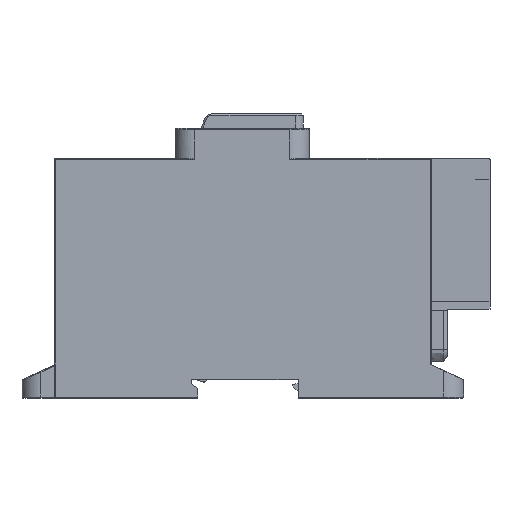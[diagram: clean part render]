
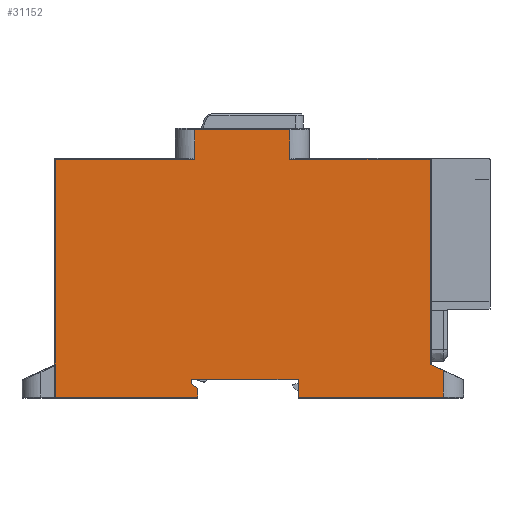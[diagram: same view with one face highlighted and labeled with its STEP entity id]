
A CAD part, left-side view. The second image highlights one B-rep face of the part: STEP entity #31152.
In plain terms, the highlighted planar face has unit normal (-1, 0, 0).
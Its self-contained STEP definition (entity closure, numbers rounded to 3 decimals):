
#603=DIRECTION('',(0.,-1.,0.));
#604=VECTOR('',#603,47.2);
#605=CARTESIAN_POINT('',(0.,144.2,0.3));
#606=LINE('',#605,#604);
#632=DIRECTION('',(0.,0.005,1.));
#633=VECTOR('',#632,5.987);
#634=CARTESIAN_POINT('',(0.,63.62,
0.3));
#635=LINE('',#634,#633);
#636=DIRECTION('',(0.,1.,0.));
#637=VECTOR('',#636,35.497);
#638=CARTESIAN_POINT('',(0.,63.652,6.287));
#639=LINE('',#638,#637);
#640=DIRECTION('',(0.,0.005,-1.));
#641=VECTOR('',#640,1.595);
#642=CARTESIAN_POINT('',(0.,99.148,6.3));
#643=LINE('',#642,#641);
#644=DIRECTION('',(0.,-0.819,-0.574));
#645=VECTOR('',#644,2.633);
#646=CARTESIAN_POINT('',(0.,99.157,4.705));
#647=LINE('',#646,#645);
#648=DIRECTION('',(0.,0.,-1.));
#649=VECTOR('',#648,2.895);
#650=CARTESIAN_POINT('',(0.,97.,3.195));
#651=LINE('',#650,#649);
#652=DIRECTION('',(0.,0.,1.));
#653=VECTOR('',#652,9.801);
#654=CARTESIAN_POINT('',(0.,97.977,79.199));
#655=LINE('',#654,#653);
#656=DIRECTION('',(0.,-1.,0.));
#657=VECTOR('',#656,31.599);
#658=CARTESIAN_POINT('',(0.,97.977,89.));
#659=LINE('',#658,#657);
#660=DIRECTION('',(0.,0.013,-1.));
#661=VECTOR('',#660,9.802);
#662=CARTESIAN_POINT('',(0.,66.378,89.));
#663=LINE('',#662,#661);
#664=DIRECTION('',(0.,-0.907,-0.42));
#665=VECTOR('',#664,4.738);
#666=CARTESIAN_POINT('',(0.,19.8,11.139));
#667=LINE('',#666,#665);
#668=DIRECTION('',(0.,-1.,0.));
#669=VECTOR('',#668,48.12);
#670=CARTESIAN_POINT('',(0.,63.62,
0.3));
#671=LINE('',#670,#669);
#688=CARTESIAN_POINT('',(0.,63.652,6.287));
#1198=DIRECTION('',(0.,0.,1.));
#1199=VECTOR('',#1198,8.848);
#1200=CARTESIAN_POINT('',(0.,15.5,0.3));
#1201=LINE('',#1200,#1199);
#1221=CARTESIAN_POINT('',(0.,15.5,9.148));
#6554=DIRECTION('',(0.,0.,1.));
#6555=VECTOR('',#6554,68.06);
#6556=CARTESIAN_POINT('',(0.,19.8,11.139));
#6557=LINE('',#6556,#6555);
#6566=DIRECTION('',(0.,1.,0.));
#6567=VECTOR('',#6566,46.704);
#6568=CARTESIAN_POINT('',(0.,19.8,79.199));
#6569=LINE('',#6568,#6567);
#6575=CARTESIAN_POINT('',(0.,66.504,79.199));
#6577=CARTESIAN_POINT('',(0.,66.378,89.));
#6631=DIRECTION('',(0.,1.,0.));
#6632=VECTOR('',#6631,46.223);
#6633=CARTESIAN_POINT('',(0.,97.977,79.199));
#6634=LINE('',#6633,#6632);
#7671=CARTESIAN_POINT('',(0.,99.148,6.3));
#17065=DIRECTION('',(0.,0.,-1.));
#17066=VECTOR('',#17065,78.899);
#17067=CARTESIAN_POINT('',(0.,144.2,79.199));
#17068=LINE('',#17067,#17066);
#24373=VERTEX_POINT('',#1221);
#24374=CARTESIAN_POINT('',(0.,19.8,11.139));
#24375=VERTEX_POINT('',#24374);
#26413=VERTEX_POINT('',#688);
#26414=CARTESIAN_POINT('',(0.,63.62,
0.3));
#26415=VERTEX_POINT('',#26414);
#26600=VERTEX_POINT('',#7671);
#26615=CARTESIAN_POINT('',(0.,99.157,
4.705));
#26616=VERTEX_POINT('',#26615);
#26623=CARTESIAN_POINT('',(0.,97.,3.195));
#26624=VERTEX_POINT('',#26623);
#26649=CARTESIAN_POINT('',(0.,97.,0.3));
#26650=VERTEX_POINT('',#26649);
#29021=CARTESIAN_POINT('',(0.,144.2,0.3));
#29022=VERTEX_POINT('',#29021);
#29023=CARTESIAN_POINT('',(0.,144.2,79.199));
#29024=VERTEX_POINT('',#29023);
#29084=VERTEX_POINT('',#6577);
#29087=VERTEX_POINT('',#6575);
#29088=CARTESIAN_POINT('',(0.,19.8,79.199));
#29089=VERTEX_POINT('',#29088);
#29090=CARTESIAN_POINT('',(0.,15.5,0.3));
#29091=VERTEX_POINT('',#29090);
#29092=CARTESIAN_POINT('',(0.,97.977,79.199));
#29093=VERTEX_POINT('',#29092);
#29094=CARTESIAN_POINT('',(0.,97.977,89.));
#29095=VERTEX_POINT('',#29094);
#31115=CARTESIAN_POINT('',(0.,156.,0.));
#31116=DIRECTION('',(-1.,0.,0.));
#31117=DIRECTION('',(0.,-1.,0.));
#31118=AXIS2_PLACEMENT_3D('',#31115,#31116,#31117);
#31119=PLANE('',#31118);
#31121=ORIENTED_EDGE('',*,*,#31120,.F.);
#31123=ORIENTED_EDGE('',*,*,#31122,.T.);
#31125=ORIENTED_EDGE('',*,*,#31124,.T.);
#31127=ORIENTED_EDGE('',*,*,#31126,.T.);
#31129=ORIENTED_EDGE('',*,*,#31128,.T.);
#31130=ORIENTED_EDGE('',*,*,#31098,.T.);
#31131=ORIENTED_EDGE('',*,*,#31087,.F.);
#31133=ORIENTED_EDGE('',*,*,#31132,.F.);
#31135=ORIENTED_EDGE('',*,*,#31134,.F.);
#31137=ORIENTED_EDGE('',*,*,#31136,.T.);
#31139=ORIENTED_EDGE('',*,*,#31138,.T.);
#31141=ORIENTED_EDGE('',*,*,#31140,.T.);
#31143=ORIENTED_EDGE('',*,*,#31142,.F.);
#31145=ORIENTED_EDGE('',*,*,#31144,.F.);
#31147=ORIENTED_EDGE('',*,*,#31146,.T.);
#31149=ORIENTED_EDGE('',*,*,#31148,.F.);
#31150=EDGE_LOOP('',(#31121,#31123,#31125,#31127,#31129,#31130,#31131,#31133,
#31135,#31137,#31139,#31141,#31143,#31145,#31147,#31149));
#31151=FACE_OUTER_BOUND('',#31150,.F.);
#31152=ADVANCED_FACE('',(#31151),#31119,.T.);
#31087=EDGE_CURVE('',#29022,#26650,#606,.T.);
#31098=EDGE_CURVE('',#26624,#26650,#651,.T.);
#31120=EDGE_CURVE('',#26415,#29091,#671,.T.);
#31122=EDGE_CURVE('',#26415,#26413,#635,.T.);
#31124=EDGE_CURVE('',#26413,#26600,#639,.T.);
#31126=EDGE_CURVE('',#26600,#26616,#643,.T.);
#31128=EDGE_CURVE('',#26616,#26624,#647,.T.);
#31132=EDGE_CURVE('',#29024,#29022,#17068,.T.);
#31134=EDGE_CURVE('',#29093,#29024,#6634,.T.);
#31136=EDGE_CURVE('',#29093,#29095,#655,.T.);
#31138=EDGE_CURVE('',#29095,#29084,#659,.T.);
#31140=EDGE_CURVE('',#29084,#29087,#663,.T.);
#31142=EDGE_CURVE('',#29089,#29087,#6569,.T.);
#31144=EDGE_CURVE('',#24375,#29089,#6557,.T.);
#31146=EDGE_CURVE('',#24375,#24373,#667,.T.);
#31148=EDGE_CURVE('',#29091,#24373,#1201,.T.);
